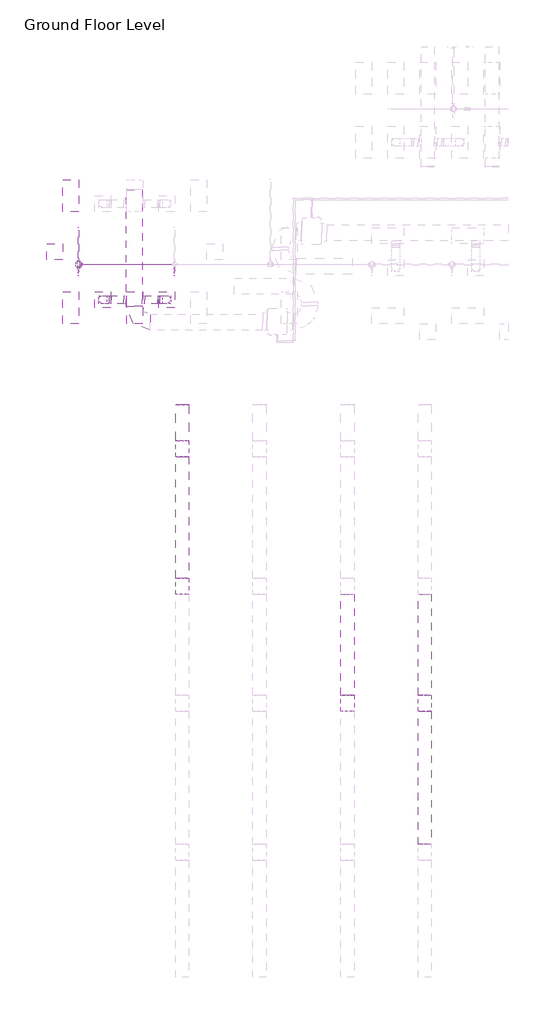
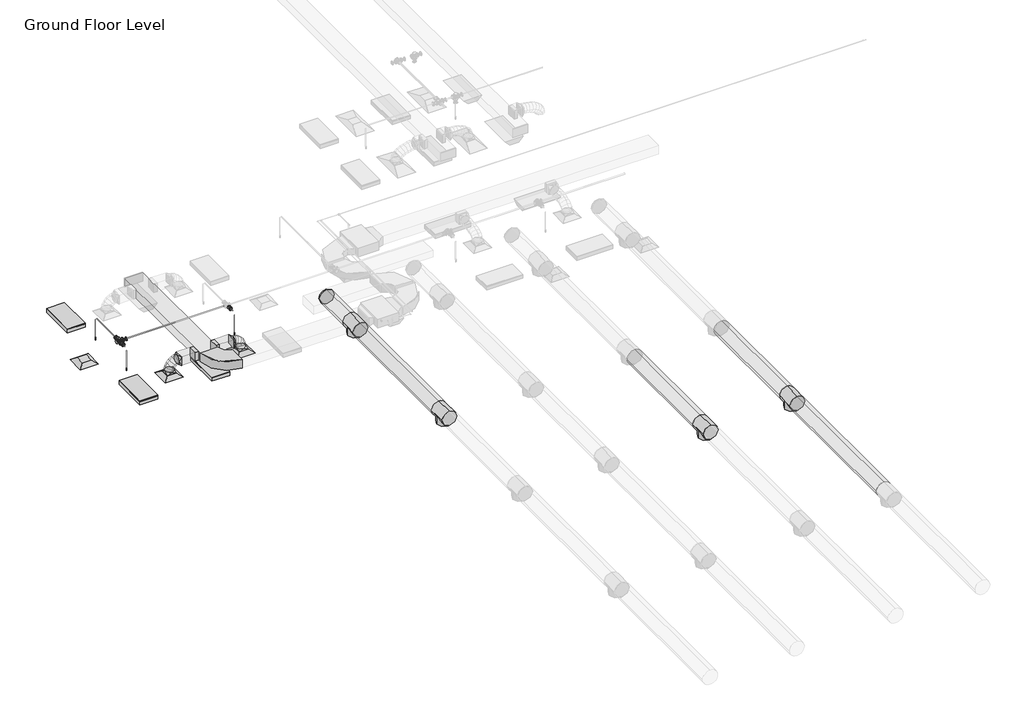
# One storey, part 10 of 75: 12 duct fittings, 10 duct segments, 7 pipe segments, 5 pipe fittings, 3 air terminals, 3 fire suppression terminals, 3 light fixtures.
"""IFC4 building model written with IfcOpenShell, lengths in millimetres."""

from ifc_helpers import new_model, si_unit, point, frame, frame_2d, origin, place, context, project, spatial, polyline, circle_curve, ellipse_curve, trimmed, segment, composite_curve, outline, extrude, transform, mapped, element, save
from ifc_brep_helpers import plane_surface, cylinder_surface, advanced_brep
from components import m_return_diffuser_600_x_600_face_300_x_300_connection_ff221211, m_rectangular_elbow_radius_1_w_c6ed0251, m_rectangular_takeoff_standard_cb0ccb98, m_rectangular_takeoff_standard_2be5eba1, m_rectangular_to_round_transition_angle_45_degree_641efff0, m_round_endcap_standard_1c45c55c, m_round_tee_standard_ed589d36, m_sprinkler_dry_pendent_hosted_15_mm_dry_pendent_9bda8e11, m_troffer_light_parabolic_rectangular1_0600x1200mm_4_lamp_86473d4a, m_reducer_flanged_cs_class_150_standard_ccf252ad, m_reducer_flanged_cs_class_150_standard_8338f9e4, m_reducer_flanged_cs_class_150_standard_dc68ad9d, m_tee_round_base_flanged_cs_class_150_standard_ab36f383

model = new_model("IFC4")

# Units and contexts
model_context = context("Model", 3, world=origin())
ifc_project = project(units=[si_unit("LENGTHUNIT", "METRE", prefix="MILLI")], contexts=[model_context])

# Site, building, storey
site = spatial("IfcSite", under=ifc_project)
building = spatial("IfcBuilding", under=site)
storey = spatial("IfcBuildingStorey", under=building, Name="Ground Floor Level", Elevation=900.0)

# Air terminals
placement = place(None, origin())
m_return_diffuser_600_x_600_face_300_x_300_connection_shape = m_return_diffuser_600_x_600_face_300_x_300_connection_ff221211(model_context)
element("IfcAirTerminal", 1, ObjectType="M_Return Diffuser : 600 x 600 Face 300 x 300 Connection", at=placement, inside=storey, context=model_context, shape_type="MappedRepresentation", body=[
    mapped(m_return_diffuser_600_x_600_face_300_x_300_connection_shape, transform((-20937.2327605, -2464.7846466, 3650.0), x_axis=(1.0, 0.0, 0.0), y_axis=(0.0, 1.0, 0.0), z_axis=(0.0, 0.0, 1.0))),
])
element("IfcAirTerminal", 2, ObjectType="M_Supply Diffuser : 600 x 600 Face 300 x 300 Connection", at=placement, inside=storey, context=model_context, shape_type="MappedRepresentation", body=[
    mapped(m_return_diffuser_600_x_600_face_300_x_300_connection_shape, transform((-19137.2327605, -4264.7846466, 3650.0), x_axis=(1.0, 0.0, 0.0), y_axis=(0.0, 1.0, 0.0), z_axis=(0.0, 0.0, 1.0))),
])
element("IfcAirTerminal", 3, ObjectType="M_Supply Diffuser : 600 x 600 Face 300 x 300 Connection", at=placement, inside=storey, context=model_context, shape_type="MappedRepresentation", body=[
    mapped(m_return_diffuser_600_x_600_face_300_x_300_connection_shape, transform((-16737.2327605, -4264.7846466, 3650.0), x_axis=(1.0, 0.0, 0.0), y_axis=(0.0, 1.0, 0.0), z_axis=(0.0, 0.0, 1.0))),
])

# Duct fittings
m_rectangular_elbow_radius_1_w_shape = m_rectangular_elbow_radius_1_w_c6ed0251(model_context)
element("IfcDuctFitting", 4, ObjectType="M_Rectangular Elbow - Radius : 1 W", at=placement, inside=storey, context=model_context, shape_type="MappedRepresentation", body=[
    mapped(m_rectangular_elbow_radius_1_w_shape, transform((-17948.0331707, -5111.2846466, 4099.9999574), x_axis=(0.0, -0.999999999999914, -4.1482844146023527e-07), y_axis=(0.9999999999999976, 0.0, 7.102056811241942e-08), z_axis=(-7.102056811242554e-08, -4.1482844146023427e-07, 0.9999999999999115))),
])
m_rectangular_takeoff_standard_shape = m_rectangular_takeoff_standard_cb0ccb98(model_context)
element("IfcDuctFitting", 5, ObjectType="M_Rectangular Takeoff : Standard", at=placement, inside=storey, context=model_context, shape_type="MappedRepresentation", body=[
    mapped(m_rectangular_takeoff_standard_shape, transform((-18248.0331707, -4264.7846466, 4100.0003085), x_axis=(-1.0, 0.0, 0.0), y_axis=(0.0, 1.0, 0.0), z_axis=(0.0, 0.0, -1.0))),
])
m_rectangular_takeoff_standard_2_shape = m_rectangular_takeoff_standard_2be5eba1(model_context)
element("IfcDuctFitting", 6, ObjectType="M_Rectangular Takeoff : Standard", at=placement, inside=storey, context=model_context, shape_type="MappedRepresentation", body=[
    mapped(m_rectangular_takeoff_standard_2_shape, transform((-17648.0331707, -4264.7846466, 4100.0003085), x_axis=(1.0, 0.0, 0.0), y_axis=(0.0, -1.0, 0.0), z_axis=(0.0, 0.0, -1.0))),
])
m_rectangular_to_round_transition_angle_45_degree_shape = m_rectangular_to_round_transition_angle_45_degree_641efff0(model_context)
element("IfcDuctFitting", 7, ObjectType="M_Rectangular to Round Transition - Angle : 45 Degree", at=placement, inside=storey, context=model_context, shape_type="MappedRepresentation", body=[
    mapped(m_rectangular_to_round_transition_angle_45_degree_shape, transform((-19137.2327605, -4264.7846466, 3751.6), x_axis=(0.0, 0.0, 1.0), y_axis=(-1.0, 0.0, 0.0), z_axis=(0.0, -1.0, 0.0))),
])
element("IfcDuctFitting", 8, ObjectType="M_Rectangular to Round Transition - Angle : 45 Degree", at=placement, inside=storey, context=model_context, shape_type="MappedRepresentation", body=[
    mapped(m_rectangular_to_round_transition_angle_45_degree_shape, transform((-18809.8971378, -4264.7846466, 4100.0003085), x_axis=(-1.0, 0.0, 0.0), y_axis=(0.0, -1.0, 0.0), z_axis=(0.0, 0.0, 1.0))),
])
element("IfcDuctFitting", 9, ObjectType="M_Rectangular to Round Transition - Angle : 45 Degree", at=placement, inside=storey, context=model_context, shape_type="MappedRepresentation", body=[
    mapped(m_rectangular_to_round_transition_angle_45_degree_shape, transform((-16737.2327605, -4264.7846466, 3751.6), x_axis=(0.0, 0.0, 1.0), y_axis=(-1.0, 0.0, 0.0), z_axis=(0.0, -1.0, 0.0))),
])
element("IfcDuctFitting", 10, ObjectType="M_Rectangular to Round Transition - Angle : 45 Degree", at=placement, inside=storey, context=model_context, shape_type="MappedRepresentation", body=[
    mapped(m_rectangular_to_round_transition_angle_45_degree_shape, transform((-17064.5683833, -4264.7846466, 4100.0003085), x_axis=(1.0, 0.0, 0.0), y_axis=(0.0, 1.0, 0.0), z_axis=(0.0, 0.0, 1.0))),
])
m_round_endcap_standard_shape = m_round_endcap_standard_1c45c55c(model_context)
element("IfcDuctFitting", 11, ObjectType="M_Round Endcap : Standard", at=placement, inside=storey, context=model_context, shape_type="MappedRepresentation", body=[
    mapped(m_round_endcap_standard_shape, transform((-16150.3527512, -8221.0125677, 7765.9), x_axis=(0.0, 0.9999999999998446, -5.576948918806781e-07), y_axis=(-1.0000000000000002, 0.0, 0.0), z_axis=(0.0, 5.576948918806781e-07, 0.9999999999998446))),
])
m_round_tee_standard_shape = m_round_tee_standard_ed589d36(model_context)
element("IfcDuctFitting", 12, ObjectType="M_Round Tee : Standard", at=placement, inside=storey, context=model_context, shape_type="MappedRepresentation", body=[
    mapped(m_round_tee_standard_shape, transform((-16150.3527512, -9864.7844235, 7765.9009947), x_axis=(0.0, 0.9999999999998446, -5.576948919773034e-07), y_axis=(0.0, 5.576948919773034e-07, 0.9999999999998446), z_axis=(1.0, 0.0, 0.0))),
])
element("IfcDuctFitting", 13, ObjectType="M_Round Tee : Standard", at=placement, inside=storey, context=model_context, shape_type="MappedRepresentation", body=[
    mapped(m_round_tee_standard_shape, transform((-16150.3527512, -15012.784348, 7765.9038657), x_axis=(0.0, 0.9999999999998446, -5.576948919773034e-07), y_axis=(0.0, 5.576948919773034e-07, 0.9999999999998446), z_axis=(1.0, 0.0, 0.0))),
])
element("IfcDuctFitting", 14, ObjectType="M_Round Tee : Standard", at=placement, inside=storey, context=model_context, shape_type="MappedRepresentation", body=[
    mapped(m_round_tee_standard_shape, transform((-9950.3527512, -19404.784563, 7765.9063151), x_axis=(0.0, 0.9999999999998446, -5.576948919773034e-07), y_axis=(0.0, 5.576948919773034e-07, 0.9999999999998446), z_axis=(1.0, 0.0, 0.0))),
])
element("IfcDuctFitting", 15, ObjectType="M_Round Tee : Standard", at=placement, inside=storey, context=model_context, shape_type="MappedRepresentation", body=[
    mapped(m_round_tee_standard_shape, transform((-7050.3527512, -19404.784563, 7765.9063151), x_axis=(0.0, 0.9999999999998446, -5.576948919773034e-07), y_axis=(0.0, 5.576948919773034e-07, 0.9999999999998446), z_axis=(1.0, 0.0, 0.0))),
])

# Duct segments
element("IfcDuctSegment", 16, ObjectType="Flex - Round", at=placement, inside=storey, context=model_context, shape_type="AdvancedBrep", body=[
    advanced_brep(
    [(-18987.2327605, -4264.7846466, 3826.6), (-19137.2327605, -4414.7846466, 3826.6), (-19287.2327605, -4264.7846466, 3826.6), (-19137.2327605, -4114.7846466, 3826.6), (-18987.2327605, -4264.7846466, 3832.5806494), (-19137.2327605, -4414.7846466, 3854.3870846), (-19287.2327605, -4264.7846466, 3876.1935198), (-19137.2327605, -4114.7846466, 3854.3870846), (-18983.2864584, -4264.7846466, 3845.866521), (-19122.8954468, -4414.7846466, 3902.6559964), (-19262.5044353, -4264.7846466, 3959.4454718), (-19122.8954468, -4114.7846466, 3902.6559964), (-18960.1038556, -4264.7846466, 3889.9713348), (-19084.1273946, -4414.7846466, 3976.4120685), (-19208.1509336, -4264.7846466, 4062.8528022), (-19084.1273946, -4114.7846466, 3976.4120685), (-18929.3324827, -4264.7846466, 3924.1186367), (-19027.2944369, -4414.7846466, 4039.4801732), (-19125.2563911, -4264.7846466, 4154.8417097), (-19027.2944369, -4114.7846466, 4039.4801732), (-18889.6598286, -4264.7846466, 3949.5853148), (-18958.7624069, -4414.7846466, 4083.4722675), (-19027.8649852, -4264.7846466, 4217.3592203), (-18958.7624069, -4114.7846466, 4083.4722675), (-18888.6275862, -4264.7846466, 3950.0003085), (-18917.6510814, -4414.7846466, 4100.0003085), (-18946.6745767, -4264.7846466, 4250.0003085), (-18917.6510814, -4114.7846466, 4100.0003085), (-18884.8971378, -4264.7846466, 3950.0003085), (-18884.8971378, -4114.7846466, 4100.0003085), (-18884.8971378, -4264.7846466, 4250.0003085), (-18884.8971378, -4414.7846466, 4100.0003085)],
    [
        (0, 1, circle_curve(frame((-19137.2327605, -4264.7846466, 3826.6), z_axis=(0.0, 0.0, -1.0), x_axis=(1.0, 0.0, 0.0)), 150.0)),
        (1, 2, circle_curve(frame((-19137.2327605, -4264.7846466, 3826.6), z_axis=(0.0, 0.0, -1.0), x_axis=(1.0, 0.0, 0.0)), 150.0)),
        (2, 3, circle_curve(frame((-19137.2327605, -4264.7846466, 3826.6), z_axis=(0.0, 0.0, -1.0), x_axis=(1.0, 0.0, 0.0)), 150.0)),
        (3, 0, circle_curve(frame((-19137.2327605, -4264.7846466, 3826.6), z_axis=(0.0, 0.0, -1.0), x_axis=(1.0, 0.0, 0.0)), 150.0)),
        (0, 4),
        (4, 5, ellipse_curve(frame((-19137.2327605, -4264.7846466, 3854.3870846), z_axis=(-0.14386395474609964, 0.0, -0.9895974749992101), x_axis=(0.9895974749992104, 0.0, -0.14386395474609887)), 151.5767813, 150.0)),
        (5, 1),
        (5, 6, ellipse_curve(frame((-19137.2327605, -4264.7846466, 3854.3870846), z_axis=(-0.14386395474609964, 0.0, -0.9895974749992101), x_axis=(0.9895974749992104, 0.0, -0.14386395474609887)), 151.5767813, 150.0)),
        (6, 2),
        (6, 7, ellipse_curve(frame((-19137.2327605, -4264.7846466, 3854.3870846), z_axis=(-0.14386395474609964, 0.0, -0.9895974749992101), x_axis=(0.9895974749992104, 0.0, -0.14386395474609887)), 151.5767813, 150.0)),
        (7, 3),
        (7, 4, ellipse_curve(frame((-19137.2327605, -4264.7846466, 3854.3870846), z_axis=(-0.14386395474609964, 0.0, -0.9895974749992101), x_axis=(0.9895974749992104, 0.0, -0.14386395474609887)), 151.5767813, 150.0)),
        (4, 8),
        (8, 9, ellipse_curve(frame((-19122.8954468, -4264.7846466, 3902.6559964), z_axis=(-0.376794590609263, 0.0, -0.9262968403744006), x_axis=(0.9262968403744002, 0.0, -0.37679459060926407)), 150.717332, 150.0)),
        (9, 5),
        (9, 10, ellipse_curve(frame((-19122.8954468, -4264.7846466, 3902.6559964), z_axis=(-0.376794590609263, 0.0, -0.9262968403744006), x_axis=(0.9262968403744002, 0.0, -0.37679459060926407)), 150.717332, 150.0)),
        (10, 6),
        (10, 11, ellipse_curve(frame((-19122.8954468, -4264.7846466, 3902.6559964), z_axis=(-0.376794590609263, 0.0, -0.9262968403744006), x_axis=(0.9262968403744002, 0.0, -0.37679459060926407)), 150.717332, 150.0)),
        (11, 7),
        (11, 8, ellipse_curve(frame((-19122.8954468, -4264.7846466, 3902.6559964), z_axis=(-0.376794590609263, 0.0, -0.9262968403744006), x_axis=(0.9262968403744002, 0.0, -0.37679459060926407)), 150.717332, 150.0)),
        (8, 12),
        (12, 13, ellipse_curve(frame((-19084.1273946, -4264.7846466, 3976.4120685), z_axis=(-0.5717930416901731, 0.0, -0.8203979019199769), x_axis=(0.8203979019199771, 0.0, -0.5717930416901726)), 151.1748612, 150.0)),
        (13, 9),
        (13, 14, ellipse_curve(frame((-19084.1273946, -4264.7846466, 3976.4120685), z_axis=(-0.5717930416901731, 0.0, -0.8203979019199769), x_axis=(0.8203979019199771, 0.0, -0.5717930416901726)), 151.1748612, 150.0)),
        (14, 10),
        (14, 15, ellipse_curve(frame((-19084.1273946, -4264.7846466, 3976.4120685), z_axis=(-0.5717930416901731, 0.0, -0.8203979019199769), x_axis=(0.8203979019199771, 0.0, -0.5717930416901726)), 151.1748612, 150.0)),
        (15, 11),
        (15, 12, ellipse_curve(frame((-19084.1273946, -4264.7846466, 3976.4120685), z_axis=(-0.5717930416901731, 0.0, -0.8203979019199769), x_axis=(0.8203979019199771, 0.0, -0.5717930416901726)), 151.1748612, 150.0)),
        (12, 16),
        (16, 17, ellipse_curve(frame((-19027.2944369, -4264.7846466, 4039.4801732), z_axis=(-0.7622501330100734, 0.0, -0.6472825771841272), x_axis=(0.6472825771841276, 0.0, -0.7622501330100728)), 151.3434127, 150.0)),
        (17, 13),
        (17, 18, ellipse_curve(frame((-19027.2944369, -4264.7846466, 4039.4801732), z_axis=(-0.7622501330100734, 0.0, -0.6472825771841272), x_axis=(0.6472825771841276, 0.0, -0.7622501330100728)), 151.3434127, 150.0)),
        (18, 14),
        (18, 19, ellipse_curve(frame((-19027.2944369, -4264.7846466, 4039.4801732), z_axis=(-0.7622501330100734, 0.0, -0.6472825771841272), x_axis=(0.6472825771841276, 0.0, -0.7622501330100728)), 151.3434127, 150.0)),
        (19, 15),
        (19, 16, ellipse_curve(frame((-19027.2944369, -4264.7846466, 4039.4801732), z_axis=(-0.7622501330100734, 0.0, -0.6472825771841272), x_axis=(0.6472825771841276, 0.0, -0.7622501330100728)), 151.3434127, 150.0)),
        (16, 20),
        (20, 21, ellipse_curve(frame((-18958.7624069, -4264.7846466, 4083.4722675), z_axis=(-0.8886216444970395, 0.0, -0.45864100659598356), x_axis=(0.45864100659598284, 0.0, -0.88862164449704)), 150.6681202, 150.0)),
        (21, 17),
        (21, 22, ellipse_curve(frame((-18958.7624069, -4264.7846466, 4083.4722675), z_axis=(-0.8886216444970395, 0.0, -0.45864100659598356), x_axis=(0.45864100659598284, 0.0, -0.88862164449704)), 150.6681202, 150.0)),
        (22, 18),
        (22, 23, ellipse_curve(frame((-18958.7624069, -4264.7846466, 4083.4722675), z_axis=(-0.8886216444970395, 0.0, -0.45864100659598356), x_axis=(0.45864100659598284, 0.0, -0.88862164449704)), 150.6681202, 150.0)),
        (23, 19),
        (23, 20, ellipse_curve(frame((-18958.7624069, -4264.7846466, 4083.4722675), z_axis=(-0.8886216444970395, 0.0, -0.45864100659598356), x_axis=(0.45864100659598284, 0.0, -0.88862164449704)), 150.6681202, 150.0)),
        (20, 24),
        (24, 25, ellipse_curve(frame((-18917.6510814, -4264.7846466, 4100.0003085), z_axis=(-0.9817905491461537, 0.0, -0.18996662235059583), x_axis=(0.18996662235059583, 0.0, -0.9817905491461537)), 152.7820777, 150.0)),
        (25, 21),
        (25, 26, ellipse_curve(frame((-18917.6510814, -4264.7846466, 4100.0003085), z_axis=(-0.9817905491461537, 0.0, -0.18996662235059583), x_axis=(0.18996662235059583, 0.0, -0.9817905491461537)), 152.7820777, 150.0)),
        (26, 22),
        (26, 27, ellipse_curve(frame((-18917.6510814, -4264.7846466, 4100.0003085), z_axis=(-0.9817905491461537, 0.0, -0.18996662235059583), x_axis=(0.18996662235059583, 0.0, -0.9817905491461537)), 152.7820777, 150.0)),
        (27, 23),
        (27, 24, ellipse_curve(frame((-18917.6510814, -4264.7846466, 4100.0003085), z_axis=(-0.9817905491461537, 0.0, -0.18996662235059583), x_axis=(0.18996662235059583, 0.0, -0.9817905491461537)), 152.7820777, 150.0)),
        (28, 29, circle_curve(frame((-18884.8971378, -4264.7846466, 4100.0003085), z_axis=(1.0, 0.0, 0.0), x_axis=(0.0, 0.0, -1.0)), 150.0)),
        (29, 30, circle_curve(frame((-18884.8971378, -4264.7846466, 4100.0003085), z_axis=(1.0, 0.0, 0.0), x_axis=(0.0, 0.0, -1.0)), 150.0)),
        (30, 31, circle_curve(frame((-18884.8971378, -4264.7846466, 4100.0003085), z_axis=(1.0, 0.0, 0.0), x_axis=(0.0, 0.0, -1.0)), 150.0)),
        (31, 28, circle_curve(frame((-18884.8971378, -4264.7846466, 4100.0003085), z_axis=(1.0, 0.0, 0.0), x_axis=(0.0, 0.0, -1.0)), 150.0)),
        (24, 28),
        (31, 25),
        (30, 26),
        (29, 27),
    ],
    [
        plane_surface(frame((-19137.2327605, -4414.7846466, 3826.6), z_axis=(0.0, 0.0, -1.0), x_axis=(1.0, 0.0, 0.0))),
        cylinder_surface(frame((-19137.2327605, -4264.7846466, 3826.6), z_axis=(0.0, 0.0, -1.0), x_axis=(1.0, 0.0, 0.0)), 150.0),
        cylinder_surface(frame((-19137.2327605, -4264.7846466, 3854.3870846), z_axis=(-0.28473481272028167, 0.0, -0.9586063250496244), x_axis=(0.9586063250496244, 0.0, -0.28473481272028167)), 150.0),
        cylinder_surface(frame((-19122.8954468, -4264.7846466, 3902.6559964), z_axis=(-0.4652676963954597, 0.0, -0.8851700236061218), x_axis=(0.8851700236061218, 0.0, -0.4652676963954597)), 150.0),
        cylinder_surface(frame((-19084.1273946, -4264.7846466, 3976.4120685), z_axis=(-0.6694309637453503, 0.0, -0.7428742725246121), x_axis=(0.7428742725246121, 0.0, -0.6694309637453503)), 150.0),
        cylinder_surface(frame((-19027.2944369, -4264.7846466, 4039.4801732), z_axis=(-0.8415369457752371, 0.0, -0.5401995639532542), x_axis=(0.5401995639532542, 0.0, -0.8415369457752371)), 150.0),
        cylinder_surface(frame((-18958.7624069, -4264.7846466, 4083.4722675), z_axis=(-0.9278253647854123, 0.0, -0.37301486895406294), x_axis=(0.37301486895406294, 0.0, -0.9278253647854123)), 150.0),
        plane_surface(frame((-18884.8971378, -4264.7846466, 3950.0003085), z_axis=(1.0, 0.0, 0.0), x_axis=(0.0, 1.0, 0.0))),
        cylinder_surface(frame((-18917.6510814, -4264.7846466, 4100.0003085), z_axis=(-1.0, 0.0, 0.0), x_axis=(0.0, 0.0, -1.0)), 150.0),
    ],
    [
        (0, [[1, 2, 3, 4]]),
        (1, [[-1, 5, 6, 7]]),
        (1, [[-2, -7, 8, 9]]),
        (1, [[-3, -9, 10, 11]]),
        (1, [[-4, -11, 12, -5]]),
        (2, [[-6, 13, 14, 15]]),
        (2, [[-8, -15, 16, 17]]),
        (2, [[-10, -17, 18, 19]]),
        (2, [[-12, -19, 20, -13]]),
        (3, [[-14, 21, 22, 23]]),
        (3, [[-16, -23, 24, 25]]),
        (3, [[-18, -25, 26, 27]]),
        (3, [[-20, -27, 28, -21]]),
        (4, [[-22, 29, 30, 31]]),
        (4, [[-24, -31, 32, 33]]),
        (4, [[-26, -33, 34, 35]]),
        (4, [[-28, -35, 36, -29]]),
        (5, [[-30, 37, 38, 39]]),
        (5, [[-32, -39, 40, 41]]),
        (5, [[-34, -41, 42, 43]]),
        (5, [[-36, -43, 44, -37]]),
        (6, [[-38, 45, 46, 47]]),
        (6, [[-40, -47, 48, 49]]),
        (6, [[-42, -49, 50, 51]]),
        (6, [[-44, -51, 52, -45]]),
        (7, [[53, 54, 55, 56]]),
        (8, [[-46, 57, -56, 58]]),
        (8, [[-48, -58, -55, 59]]),
        (8, [[-50, -59, -54, 60]]),
        (8, [[-52, -60, -53, -57]]),
    ],
),
])
element("IfcDuctSegment", 17, ObjectType="Flex - Round", at=placement, inside=storey, context=model_context, shape_type="AdvancedBrep", body=[
    advanced_brep(
    [(-16587.2327605, -4264.7846466, 3826.6), (-16737.2327605, -4414.7846466, 3826.6), (-16887.2327605, -4264.7846466, 3826.6), (-16737.2327605, -4114.7846466, 3826.6), (-16587.2327605, -4264.7846466, 3876.1935198), (-16737.2327605, -4414.7846466, 3854.3870846), (-16887.2327605, -4264.7846466, 3832.5806494), (-16737.2327605, -4114.7846466, 3854.3870846), (-16611.9610858, -4264.7846466, 3959.4454718), (-16751.5700742, -4414.7846466, 3902.6559964), (-16891.1790626, -4264.7846466, 3845.866521), (-16751.5700742, -4114.7846466, 3902.6559964), (-16666.3145875, -4264.7846466, 4062.8528022), (-16790.3381265, -4414.7846466, 3976.4120685), (-16914.3616655, -4264.7846466, 3889.9713348), (-16790.3381265, -4114.7846466, 3976.4120685), (-16749.20913, -4264.7846466, 4154.8417097), (-16847.1710842, -4414.7846466, 4039.4801732), (-16945.1330384, -4264.7846466, 3924.1186367), (-16847.1710842, -4114.7846466, 4039.4801732), (-16846.6005358, -4264.7846466, 4217.3592203), (-16915.7031142, -4414.7846466, 4083.4722675), (-16984.8056925, -4264.7846466, 3949.5853148), (-16915.7031142, -4114.7846466, 4083.4722675), (-16927.7909443, -4264.7846466, 4250.0003085), (-16956.8144396, -4414.7846466, 4100.0003085), (-16985.8379349, -4264.7846466, 3950.0003085), (-16956.8144396, -4114.7846466, 4100.0003085), (-16989.5683833, -4264.7846466, 4250.0003085), (-16989.5683833, -4114.7846466, 4100.0003085), (-16989.5683833, -4264.7846466, 3950.0003085), (-16989.5683833, -4414.7846466, 4100.0003085)],
    [
        (0, 1, circle_curve(frame((-16737.2327605, -4264.7846466, 3826.6), z_axis=(0.0, 0.0, -1.0), x_axis=(1.0, 0.0, 0.0)), 150.0)),
        (1, 2, circle_curve(frame((-16737.2327605, -4264.7846466, 3826.6), z_axis=(0.0, 0.0, -1.0), x_axis=(1.0, 0.0, 0.0)), 150.0)),
        (2, 3, circle_curve(frame((-16737.2327605, -4264.7846466, 3826.6), z_axis=(0.0, 0.0, -1.0), x_axis=(1.0, 0.0, 0.0)), 150.0)),
        (3, 0, circle_curve(frame((-16737.2327605, -4264.7846466, 3826.6), z_axis=(0.0, 0.0, -1.0), x_axis=(1.0, 0.0, 0.0)), 150.0)),
        (0, 4),
        (4, 5, ellipse_curve(frame((-16737.2327605, -4264.7846466, 3854.3870846), z_axis=(0.14386395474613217, 0.0, -0.9895974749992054), x_axis=(-0.9895974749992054, 0.0, -0.14386395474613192)), 151.5767813, 150.0)),
        (5, 1),
        (5, 6, ellipse_curve(frame((-16737.2327605, -4264.7846466, 3854.3870846), z_axis=(0.14386395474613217, 0.0, -0.9895974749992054), x_axis=(-0.9895974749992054, 0.0, -0.14386395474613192)), 151.5767813, 150.0)),
        (6, 2),
        (6, 7, ellipse_curve(frame((-16737.2327605, -4264.7846466, 3854.3870846), z_axis=(0.14386395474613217, 0.0, -0.9895974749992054), x_axis=(-0.9895974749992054, 0.0, -0.14386395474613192)), 151.5767813, 150.0)),
        (7, 3),
        (7, 4, ellipse_curve(frame((-16737.2327605, -4264.7846466, 3854.3870846), z_axis=(0.14386395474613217, 0.0, -0.9895974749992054), x_axis=(-0.9895974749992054, 0.0, -0.14386395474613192)), 151.5767813, 150.0)),
        (4, 8),
        (8, 9, ellipse_curve(frame((-16751.5700742, -4264.7846466, 3902.6559964), z_axis=(0.3767945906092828, 0.0, -0.9262968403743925), x_axis=(-0.926296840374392, 0.0, -0.37679459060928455)), 150.717332, 150.0)),
        (9, 5),
        (9, 10, ellipse_curve(frame((-16751.5700742, -4264.7846466, 3902.6559964), z_axis=(0.3767945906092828, 0.0, -0.9262968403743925), x_axis=(-0.926296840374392, 0.0, -0.37679459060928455)), 150.717332, 150.0)),
        (10, 6),
        (10, 11, ellipse_curve(frame((-16751.5700742, -4264.7846466, 3902.6559964), z_axis=(0.3767945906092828, 0.0, -0.9262968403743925), x_axis=(-0.926296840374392, 0.0, -0.37679459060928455)), 150.717332, 150.0)),
        (11, 7),
        (11, 8, ellipse_curve(frame((-16751.5700742, -4264.7846466, 3902.6559964), z_axis=(0.3767945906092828, 0.0, -0.9262968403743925), x_axis=(-0.926296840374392, 0.0, -0.37679459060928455)), 150.717332, 150.0)),
        (8, 12),
        (12, 13, ellipse_curve(frame((-16790.3381265, -4264.7846466, 3976.4120685), z_axis=(0.5717930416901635, 0.0, -0.8203979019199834), x_axis=(-0.820397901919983, 0.0, -0.5717930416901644)), 151.1748612, 150.0)),
        (13, 9),
        (13, 14, ellipse_curve(frame((-16790.3381265, -4264.7846466, 3976.4120685), z_axis=(0.5717930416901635, 0.0, -0.8203979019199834), x_axis=(-0.820397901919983, 0.0, -0.5717930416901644)), 151.1748612, 150.0)),
        (14, 10),
        (14, 15, ellipse_curve(frame((-16790.3381265, -4264.7846466, 3976.4120685), z_axis=(0.5717930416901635, 0.0, -0.8203979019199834), x_axis=(-0.820397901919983, 0.0, -0.5717930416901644)), 151.1748612, 150.0)),
        (15, 11),
        (15, 12, ellipse_curve(frame((-16790.3381265, -4264.7846466, 3976.4120685), z_axis=(0.5717930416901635, 0.0, -0.8203979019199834), x_axis=(-0.820397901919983, 0.0, -0.5717930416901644)), 151.1748612, 150.0)),
        (12, 16),
        (16, 17, ellipse_curve(frame((-16847.1710842, -4264.7846466, 4039.4801732), z_axis=(0.7622501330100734, 0.0, -0.6472825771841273), x_axis=(-0.6472825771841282, 0.0, -0.7622501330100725)), 151.3434127, 150.0)),
        (17, 13),
        (17, 18, ellipse_curve(frame((-16847.1710842, -4264.7846466, 4039.4801732), z_axis=(0.7622501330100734, 0.0, -0.6472825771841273), x_axis=(-0.6472825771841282, 0.0, -0.7622501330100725)), 151.3434127, 150.0)),
        (18, 14),
        (18, 19, ellipse_curve(frame((-16847.1710842, -4264.7846466, 4039.4801732), z_axis=(0.7622501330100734, 0.0, -0.6472825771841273), x_axis=(-0.6472825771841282, 0.0, -0.7622501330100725)), 151.3434127, 150.0)),
        (19, 15),
        (19, 16, ellipse_curve(frame((-16847.1710842, -4264.7846466, 4039.4801732), z_axis=(0.7622501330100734, 0.0, -0.6472825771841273), x_axis=(-0.6472825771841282, 0.0, -0.7622501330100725)), 151.3434127, 150.0)),
        (16, 20),
        (20, 21, ellipse_curve(frame((-16915.7031142, -4264.7846466, 4083.4722675), z_axis=(0.8886216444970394, 0.0, -0.45864100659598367), x_axis=(-0.45864100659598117, 0.0, -0.8886216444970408)), 150.6681202, 150.0)),
        (21, 17),
        (21, 22, ellipse_curve(frame((-16915.7031142, -4264.7846466, 4083.4722675), z_axis=(0.8886216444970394, 0.0, -0.45864100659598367), x_axis=(-0.45864100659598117, 0.0, -0.8886216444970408)), 150.6681202, 150.0)),
        (22, 18),
        (22, 23, ellipse_curve(frame((-16915.7031142, -4264.7846466, 4083.4722675), z_axis=(0.8886216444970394, 0.0, -0.45864100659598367), x_axis=(-0.45864100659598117, 0.0, -0.8886216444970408)), 150.6681202, 150.0)),
        (23, 19),
        (23, 20, ellipse_curve(frame((-16915.7031142, -4264.7846466, 4083.4722675), z_axis=(0.8886216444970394, 0.0, -0.45864100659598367), x_axis=(-0.45864100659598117, 0.0, -0.8886216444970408)), 150.6681202, 150.0)),
        (20, 24),
        (24, 25, ellipse_curve(frame((-16956.8144396, -4264.7846466, 4100.0003085), z_axis=(0.9817905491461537, 0.0, -0.18996662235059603), x_axis=(-0.18996662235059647, 0.0, -0.9817905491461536)), 152.7820777, 150.0)),
        (25, 21),
        (25, 26, ellipse_curve(frame((-16956.8144396, -4264.7846466, 4100.0003085), z_axis=(0.9817905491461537, 0.0, -0.18996662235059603), x_axis=(-0.18996662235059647, 0.0, -0.9817905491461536)), 152.7820777, 150.0)),
        (26, 22),
        (26, 27, ellipse_curve(frame((-16956.8144396, -4264.7846466, 4100.0003085), z_axis=(0.9817905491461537, 0.0, -0.18996662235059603), x_axis=(-0.18996662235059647, 0.0, -0.9817905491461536)), 152.7820777, 150.0)),
        (27, 23),
        (27, 24, ellipse_curve(frame((-16956.8144396, -4264.7846466, 4100.0003085), z_axis=(0.9817905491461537, 0.0, -0.18996662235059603), x_axis=(-0.18996662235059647, 0.0, -0.9817905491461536)), 152.7820777, 150.0)),
        (28, 29, circle_curve(frame((-16989.5683833, -4264.7846466, 4100.0003085), z_axis=(-1.0, 0.0, 0.0), x_axis=(0.0, 0.0, 1.0)), 150.0)),
        (29, 30, circle_curve(frame((-16989.5683833, -4264.7846466, 4100.0003085), z_axis=(-1.0, 0.0, 0.0), x_axis=(0.0, 0.0, 1.0)), 150.0)),
        (30, 31, circle_curve(frame((-16989.5683833, -4264.7846466, 4100.0003085), z_axis=(-1.0, 0.0, 0.0), x_axis=(0.0, 0.0, 1.0)), 150.0)),
        (31, 28, circle_curve(frame((-16989.5683833, -4264.7846466, 4100.0003085), z_axis=(-1.0, 0.0, 0.0), x_axis=(0.0, 0.0, 1.0)), 150.0)),
        (24, 28),
        (31, 25),
        (30, 26),
        (29, 27),
    ],
    [
        plane_surface(frame((-16737.2327605, -4414.7846466, 3826.6), z_axis=(0.0, 0.0, -1.0), x_axis=(1.0, 0.0, 0.0))),
        cylinder_surface(frame((-16737.2327605, -4264.7846466, 3826.6), z_axis=(0.0, 0.0, -1.0), x_axis=(1.0, 0.0, 0.0)), 150.0),
        cylinder_surface(frame((-16737.2327605, -4264.7846466, 3854.3870846), z_axis=(0.2847348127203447, 0.0, -0.9586063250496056), x_axis=(0.9586063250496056, 0.0, 0.2847348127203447)), 150.0),
        cylinder_surface(frame((-16751.5700742, -4264.7846466, 3902.6559964), z_axis=(0.4652676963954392, 0.0, -0.8851700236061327), x_axis=(0.8851700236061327, 0.0, 0.4652676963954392)), 150.0),
        cylinder_surface(frame((-16790.3381265, -4264.7846466, 3976.4120685), z_axis=(0.6694309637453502, 0.0, -0.7428742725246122), x_axis=(0.7428742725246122, 0.0, 0.6694309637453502)), 150.0),
        cylinder_surface(frame((-16847.1710842, -4264.7846466, 4039.4801732), z_axis=(0.841536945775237, 0.0, -0.5401995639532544), x_axis=(0.5401995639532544, 0.0, 0.841536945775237)), 150.0),
        cylinder_surface(frame((-16915.7031142, -4264.7846466, 4083.4722675), z_axis=(0.9278253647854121, 0.0, -0.37301486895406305), x_axis=(0.37301486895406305, 0.0, 0.9278253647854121)), 150.0),
        plane_surface(frame((-16989.5683833, -4264.7846466, 3950.0003085), z_axis=(-1.0, 0.0, 0.0), x_axis=(0.0, -1.0, 0.0))),
        cylinder_surface(frame((-16956.8144396, -4264.7846466, 4100.0003085), z_axis=(1.0, 0.0, 0.0), x_axis=(0.0, 0.0, 1.0)), 150.0),
    ],
    [
        (0, [[1, 2, 3, 4]]),
        (1, [[-1, 5, 6, 7]]),
        (1, [[-2, -7, 8, 9]]),
        (1, [[-3, -9, 10, 11]]),
        (1, [[-4, -11, 12, -5]]),
        (2, [[-6, 13, 14, 15]]),
        (2, [[-8, -15, 16, 17]]),
        (2, [[-10, -17, 18, 19]]),
        (2, [[-12, -19, 20, -13]]),
        (3, [[-14, 21, 22, 23]]),
        (3, [[-16, -23, 24, 25]]),
        (3, [[-18, -25, 26, 27]]),
        (3, [[-20, -27, 28, -21]]),
        (4, [[-22, 29, 30, 31]]),
        (4, [[-24, -31, 32, 33]]),
        (4, [[-26, -33, 34, 35]]),
        (4, [[-28, -35, 36, -29]]),
        (5, [[-30, 37, 38, 39]]),
        (5, [[-32, -39, 40, 41]]),
        (5, [[-34, -41, 42, 43]]),
        (5, [[-36, -43, 44, -37]]),
        (6, [[-38, 45, 46, 47]]),
        (6, [[-40, -47, 48, 49]]),
        (6, [[-42, -49, 50, 51]]),
        (6, [[-44, -51, 52, -45]]),
        (7, [[53, 54, 55, 56]]),
        (8, [[-46, 57, -56, 58]]),
        (8, [[-48, -58, -55, 59]]),
        (8, [[-50, -59, -54, 60]]),
        (8, [[-52, -60, -53, -57]]),
    ],
),
])
element("IfcDuctSegment", 18, ObjectType="Radius Elbows / Taps", at=placement, inside=storey, context=model_context, shape_type="SweptSolid", body=[
    extrude(outline(polyline([(-17648.0331707, -4511.2846466), (-18248.0331707, -4511.2846466), (-18248.0331707, -151.2845861), (-17648.0331707, -151.2845861), (-17648.0331707, -4511.2846466)])), frame((0.0, 0.0, 3950.0002063), z_axis=(0.0, 0.0, 1.0), x_axis=(1.0, 0.0, 0.0)), (0.0, 0.0, 1.0), 300.0),
])
element("IfcDuctSegment", 19, ObjectType="Radius Elbows / Taps", at=placement, inside=storey, context=model_context, shape_type="SweptSolid", body=[
    extrude(outline(polyline([(-17546.4331707, -4414.7846466), (-17546.4331707, -4114.7846466), (-17064.5683833, -4114.7846466), (-17064.5683833, -4414.7846466), (-17546.4331707, -4414.7846466)])), frame((0.0, 0.0, 3950.0003085), z_axis=(0.0, 0.0, 1.0), x_axis=(1.0, 0.0, 0.0)), (0.0, 0.0, 1.0), 300.0),
])
element("IfcDuctSegment", 20, ObjectType="Radius Elbows / Taps", at=placement, inside=storey, context=model_context, shape_type="SweptSolid", body=[
    extrude(outline(polyline([(-18349.6331707, -4114.7846466), (-18349.6331707, -4414.7846466), (-18809.8971378, -4414.7846466), (-18809.8971378, -4114.7846466), (-18349.6331707, -4114.7846466)])), frame((0.0, 0.0, 3950.0003085), z_axis=(0.0, 0.0, 1.0), x_axis=(1.0, 0.0, 0.0)), (0.0, 0.0, 1.0), 300.0),
])
element("IfcDuctSegment", 21, ObjectType="Tees", at=placement, inside=storey, context=model_context, shape_type="SweptSolid", body=[
    extrude(outline(composite_curve([segment(trimmed(circle_curve(frame_2d((7765.9008274, -16150.3527512)), 250.0), [point((7765.9008274, -16400.3527512))], [point((7515.9008274, -16150.3527512))], False, "CARTESIAN"), True, "CONTINUOUS"), segment(trimmed(circle_curve(frame_2d((7765.9008274, -16150.3527512)), 250.0), [point((7515.9008274, -16150.3527512))], [point((7765.9008274, -15900.3527512))], False, "CARTESIAN"), True, "CONTINUOUS"), segment(trimmed(circle_curve(frame_2d((7765.9008274, -16150.3527512)), 250.0), [point((7765.9008274, -15900.3527512))], [point((8015.9008274, -16150.3527512))], False, "CARTESIAN"), True, "CONTINUOUS"), segment(trimmed(circle_curve(frame_2d((7765.9008274, -16150.3527512)), 250.0), [point((8015.9008274, -16150.3527512))], [point((7765.9008274, -16400.3527512))], False, "CARTESIAN"), True, "CONTINUOUS")], self_intersect=False)), frame((0.0, -9564.7844235, 0.0), z_axis=(0.0, 1.0, 0.0), x_axis=(0.0, 0.0, 1.0)), (0.0, 0.0, 1.0), 1343.7718558),
])
element("IfcDuctSegment", 22, ObjectType="Tees", at=placement, inside=storey, context=model_context, shape_type="SweptSolid", body=[
    extrude(outline(composite_curve([segment(trimmed(circle_curve(frame_2d((7765.901162, -16150.3527512)), 250.0), [point((7765.901162, -16400.3527512))], [point((7515.901162, -16150.3527512))], False, "CARTESIAN"), True, "CONTINUOUS"), segment(trimmed(circle_curve(frame_2d((7765.901162, -16150.3527512)), 250.0), [point((7515.901162, -16150.3527512))], [point((7765.901162, -15900.3527512))], False, "CARTESIAN"), True, "CONTINUOUS"), segment(trimmed(circle_curve(frame_2d((7765.901162, -16150.3527512)), 250.0), [point((7765.901162, -15900.3527512))], [point((8015.901162, -16150.3527512))], False, "CARTESIAN"), True, "CONTINUOUS"), segment(trimmed(circle_curve(frame_2d((7765.901162, -16150.3527512)), 250.0), [point((8015.901162, -16150.3527512))], [point((7765.901162, -16400.3527512))], False, "CARTESIAN"), True, "CONTINUOUS")], self_intersect=False)), frame((0.0, -14712.784348, 0.0), z_axis=(0.0, 1.0, 0.0), x_axis=(0.0, 0.0, 1.0)), (0.0, 0.0, 1.0), 4547.9999245),
])
element("IfcDuctSegment", 23, ObjectType="Tees", at=placement, inside=storey, context=model_context, shape_type="SweptSolid", body=[
    extrude(outline(composite_curve([segment(trimmed(circle_curve(frame_2d((7765.9061478, -9950.3527512)), 250.0), [point((7765.9061478, -9700.3527512))], [point((8015.9061478, -9950.3527512))], False, "CARTESIAN"), True, "CONTINUOUS"), segment(trimmed(circle_curve(frame_2d((7765.9061478, -9950.3527512)), 250.0), [point((8015.9061478, -9950.3527512))], [point((7765.9061478, -10200.3527512))], False, "CARTESIAN"), True, "CONTINUOUS"), segment(trimmed(circle_curve(frame_2d((7765.9061478, -9950.3527512)), 250.0), [point((7765.9061478, -10200.3527512))], [point((7515.9061478, -9950.3527512))], False, "CARTESIAN"), True, "CONTINUOUS"), segment(trimmed(circle_curve(frame_2d((7765.9061478, -9950.3527512)), 250.0), [point((7515.9061478, -9950.3527512))], [point((7765.9061478, -9700.3527512))], False, "CARTESIAN"), True, "CONTINUOUS")], self_intersect=False)), frame((0.0, -19104.784563, 0.0), z_axis=(0.0, 1.0, 0.0), x_axis=(0.0, 0.0, 1.0)), (0.0, 0.0, 1.0), 3792.000215),
])
element("IfcDuctSegment", 24, ObjectType="Tees", at=placement, inside=storey, context=model_context, shape_type="SweptSolid", body=[
    extrude(outline(composite_curve([segment(trimmed(circle_curve(frame_2d((7765.9061478, -7050.3527512)), 250.0), [point((7765.9061478, -6800.3527512))], [point((8015.9061478, -7050.3527512))], False, "CARTESIAN"), True, "CONTINUOUS"), segment(trimmed(circle_curve(frame_2d((7765.9061478, -7050.3527512)), 250.0), [point((8015.9061478, -7050.3527512))], [point((7765.9061478, -7300.3527512))], False, "CARTESIAN"), True, "CONTINUOUS"), segment(trimmed(circle_curve(frame_2d((7765.9061478, -7050.3527512)), 250.0), [point((7765.9061478, -7300.3527512))], [point((7515.9061478, -7050.3527512))], False, "CARTESIAN"), True, "CONTINUOUS"), segment(trimmed(circle_curve(frame_2d((7765.9061478, -7050.3527512)), 250.0), [point((7515.9061478, -7050.3527512))], [point((7765.9061478, -6800.3527512))], False, "CARTESIAN"), True, "CONTINUOUS")], self_intersect=False)), frame((0.0, -19104.784563, 0.0), z_axis=(0.0, 1.0, 0.0), x_axis=(0.0, 0.0, 1.0)), (0.0, 0.0, 1.0), 3792.000215),
])
element("IfcDuctSegment", 25, ObjectType="Tees", at=placement, inside=storey, context=model_context, shape_type="SweptSolid", body=[
    extrude(outline(composite_curve([segment(trimmed(circle_curve(frame_2d((7765.9092709, -7050.3527512)), 250.0), [point((7765.9092709, -6800.3527512))], [point((8015.9092709, -7050.3527512))], False, "CARTESIAN"), True, "CONTINUOUS"), segment(trimmed(circle_curve(frame_2d((7765.9092709, -7050.3527512)), 250.0), [point((8015.9092709, -7050.3527512))], [point((7765.9092709, -7300.3527512))], False, "CARTESIAN"), True, "CONTINUOUS"), segment(trimmed(circle_curve(frame_2d((7765.9092709, -7050.3527512)), 250.0), [point((7765.9092709, -7300.3527512))], [point((7515.9092709, -7050.3527512))], False, "CARTESIAN"), True, "CONTINUOUS"), segment(trimmed(circle_curve(frame_2d((7765.9092709, -7050.3527512)), 250.0), [point((7515.9092709, -7050.3527512))], [point((7765.9092709, -6800.3527512))], False, "CARTESIAN"), True, "CONTINUOUS")], self_intersect=False)), frame((0.0, -24704.784563, 0.0), z_axis=(0.0, 1.0, 0.0), x_axis=(0.0, 0.0, 1.0)), (0.0, 0.0, 1.0), 5000.0),
])

# Fire suppression terminals
m_sprinkler_dry_pendent_hosted_15_mm_dry_pendent_shape = m_sprinkler_dry_pendent_hosted_15_mm_dry_pendent_9bda8e11(model_context)
element("IfcFireSuppressionTerminal", 26, ObjectType="M_Sprinkler - Dry - Pendent - Hosted : 15 mm Dry Pendent", at=placement, inside=storey, context=model_context, shape_type="MappedRepresentation", body=[
    mapped(m_sprinkler_dry_pendent_hosted_15_mm_dry_pendent_shape, transform((-20037.2327605, -1564.7846466, 3650.0), x_axis=(1.0, 0.0, 0.0), y_axis=(0.0, -1.0, 0.0), z_axis=(0.0, 0.0, -1.0))),
])
element("IfcFireSuppressionTerminal", 27, ObjectType="M_Sprinkler - Dry - Pendent - Hosted : 15 mm Dry Pendent", at=placement, inside=storey, context=model_context, shape_type="MappedRepresentation", body=[
    mapped(m_sprinkler_dry_pendent_hosted_15_mm_dry_pendent_shape, transform((-16437.2327605, -3364.7846466, 3650.0), x_axis=(1.0, 0.0, 0.0), y_axis=(0.0, -1.0, 0.0), z_axis=(0.0, 0.0, -1.0))),
])
element("IfcFireSuppressionTerminal", 28, ObjectType="M_Sprinkler - Dry - Pendent - Hosted : 15 mm Dry Pendent", at=placement, inside=storey, context=model_context, shape_type="MappedRepresentation", body=[
    mapped(m_sprinkler_dry_pendent_hosted_15_mm_dry_pendent_shape, transform((-20037.2327605, -3364.7846466, 3650.0), x_axis=(1.0, 0.0, 0.0), y_axis=(0.0, -1.0, 0.0), z_axis=(0.0, 0.0, -1.0))),
])

# Light fixtures
m_troffer_light_parabolic_rectangular1_0600x1200mm_4_lamp_shape = m_troffer_light_parabolic_rectangular1_0600x1200mm_4_lamp_86473d4a(model_context)
element("IfcLightFixture", 29, ObjectType="M_Troffer Light - Parabolic Rectangular1 : 0600x1200mm(4 Lamp) - 277V 2", at=placement, inside=storey, context=model_context, shape_type="MappedRepresentation", body=[
    mapped(m_troffer_light_parabolic_rectangular1_0600x1200mm_4_lamp_shape, transform((-20396.6986926, -346.081145, 3650.0), x_axis=(0.0, 1.0, 0.0), y_axis=(-1.0, 0.0, 0.0), z_axis=(0.0, 0.0, 1.0))),
])
element("IfcLightFixture", 30, ObjectType="M_Troffer Light - Parabolic Rectangular1 : 0600x1200mm(4 Lamp) - 277V 2", at=placement, inside=storey, context=model_context, shape_type="MappedRepresentation", body=[
    mapped(m_troffer_light_parabolic_rectangular1_0600x1200mm_4_lamp_shape, transform((-20396.6986926, -4546.081145, 3650.0), x_axis=(0.0, 1.0, 0.0), y_axis=(-1.0, 0.0, 0.0), z_axis=(0.0, 0.0, 1.0))),
])
element("IfcLightFixture", 31, ObjectType="M_Troffer Light - Parabolic Rectangular1 : 0600x1200mm(4 Lamp) - 277V 2", at=placement, inside=storey, context=model_context, shape_type="MappedRepresentation", body=[
    mapped(m_troffer_light_parabolic_rectangular1_0600x1200mm_4_lamp_shape, transform((-17996.6986926, -4546.081145, 3650.0), x_axis=(0.0, 1.0, 0.0), y_axis=(-1.0, 0.0, 0.0), z_axis=(0.0, 0.0, 1.0))),
])

# Pipe fittings
m_reducer_flanged_cs_class_150_standard_shape = m_reducer_flanged_cs_class_150_standard_ccf252ad(model_context)
element("IfcPipeFitting", 32, ObjectType="M_Reducer - Flanged - CS - Class 150 : Standard", at=placement, inside=storey, context=model_context, shape_type="MappedRepresentation", body=[
    mapped(m_reducer_flanged_cs_class_150_standard_shape, transform((-16437.2327605, -3039.3491993, 4360.0), x_axis=(0.0, -1.0, 0.0), y_axis=(1.0, 0.0, 0.0), z_axis=(0.0, 0.0, 1.0))),
])
m_reducer_flanged_cs_class_150_standard_2_shape = m_reducer_flanged_cs_class_150_standard_8338f9e4(model_context)
element("IfcPipeFitting", 33, ObjectType="M_Reducer - Flanged - CS - Class 150 : Standard", at=placement, inside=storey, context=model_context, shape_type="MappedRepresentation", body=[
    mapped(m_reducer_flanged_cs_class_150_standard_2_shape, transform((-19924.9741668, -2950.3491993, 4360.0), x_axis=(1.0, 0.0, 0.0), y_axis=(0.0, 1.0, 0.0), z_axis=(0.0, 0.0, 1.0))),
])
m_reducer_flanged_cs_class_150_standard_3_shape = m_reducer_flanged_cs_class_150_standard_dc68ad9d(model_context)
element("IfcPipeFitting", 34, ObjectType="M_Reducer - Flanged - CS - Class 150 : Standard", at=placement, inside=storey, context=model_context, shape_type="MappedRepresentation", body=[
    mapped(m_reducer_flanged_cs_class_150_standard_3_shape, transform((-20037.2327605, -2838.0906055, 4360.0), x_axis=(0.0, 1.0, 0.0), y_axis=(-1.0, 0.0, 0.0), z_axis=(0.0, 0.0, 1.0))),
])
element("IfcPipeFitting", 35, ObjectType="M_Reducer - Flanged - CS - Class 150 : Standard", at=placement, inside=storey, context=model_context, shape_type="MappedRepresentation", body=[
    mapped(m_reducer_flanged_cs_class_150_standard_3_shape, transform((-20037.2327605, -3062.607793, 4360.0), x_axis=(0.0, -1.0, 0.0), y_axis=(1.0, 0.0, 0.0), z_axis=(0.0, 0.0, 1.0))),
])
m_tee_round_base_flanged_cs_class_150_standard_shape = m_tee_round_base_flanged_cs_class_150_standard_ab36f383(model_context)
element("IfcPipeFitting", 36, ObjectType="M_Tee Round Base - Flanged - CS - Class 150 : Standard", at=placement, inside=storey, context=model_context, shape_type="MappedRepresentation", body=[
    mapped(m_tee_round_base_flanged_cs_class_150_standard_shape, transform((-20037.2327605, -2950.3491993, 4360.0), x_axis=(0.0, -1.0, 0.0), y_axis=(-1.0, 0.0, 0.0), z_axis=(0.0, 0.0, -1.0))),
])

# Pipe segments
element("IfcPipeSegment", 37, ObjectType="Steel flanged", at=placement, inside=storey, context=model_context, shape_type="SweptSolid", body=[
    extrude(outline(composite_curve([segment(trimmed(circle_curve(frame_2d((-2950.3491993, 4360.0)), 16.7005), [point((-2933.6486993, 4360.0))], [point((-2950.3491993, 4343.2995))], False, "CARTESIAN"), True, "CONTINUOUS"), segment(trimmed(circle_curve(frame_2d((-2950.3491993, 4360.0)), 16.7005), [point((-2950.3491993, 4343.2995))], [point((-2967.0496993, 4360.0))], False, "CARTESIAN"), True, "CONTINUOUS"), segment(trimmed(circle_curve(frame_2d((-2950.3491993, 4360.0)), 16.7005), [point((-2967.0496993, 4360.0))], [point((-2950.3491993, 4376.7005))], False, "CARTESIAN"), True, "CONTINUOUS"), segment(trimmed(circle_curve(frame_2d((-2950.3491993, 4360.0)), 16.7005), [point((-2950.3491993, 4376.7005))], [point((-2933.6486993, 4360.0))], False, "CARTESIAN"), True, "CONTINUOUS")], self_intersect=False)), frame((-19810.9741668, 0.0, 0.0), z_axis=(1.0, 0.0, 0.0), x_axis=(0.0, 1.0, 0.0)), (0.0, 0.0, 1.0), 3284.7414063),
])
element("IfcPipeSegment", 38, ObjectType="Steel flanged", at=placement, inside=storey, context=model_context, shape_type="SweptSolid", body=[
    extrude(outline(composite_curve([segment(trimmed(circle_curve(frame_2d((-20037.2327605, -1564.7846466)), 10.668), [point((-20047.9007605, -1564.7846466))], [point((-20037.2327605, -1554.1166466))], False, "CARTESIAN"), True, "CONTINUOUS"), segment(trimmed(circle_curve(frame_2d((-20037.2327605, -1564.7846466)), 10.668), [point((-20037.2327605, -1554.1166466))], [point((-20026.5647605, -1564.7846466))], False, "CARTESIAN"), True, "CONTINUOUS"), segment(trimmed(circle_curve(frame_2d((-20037.2327605, -1564.7846466)), 10.668), [point((-20026.5647605, -1564.7846466))], [point((-20037.2327605, -1575.4526466))], False, "CARTESIAN"), True, "CONTINUOUS"), segment(trimmed(circle_curve(frame_2d((-20037.2327605, -1564.7846466)), 10.668), [point((-20037.2327605, -1575.4526466))], [point((-20047.9007605, -1564.7846466))], False, "CARTESIAN"), True, "CONTINUOUS")], self_intersect=False)), frame((0.0, 0.0, 3650.0), z_axis=(0.0, 0.0, 1.0), x_axis=(1.0, 0.0, 0.0)), (0.0, 0.0, 1.0), 616.9914063),
])
element("IfcPipeSegment", 39, ObjectType="Steel flanged", at=placement, inside=storey, context=model_context, shape_type="SweptSolid", body=[
    extrude(outline(composite_curve([segment(trimmed(circle_curve(frame_2d((4360.0, -20037.2327605)), 10.668), [point((4360.0, -20047.9007605))], [point((4349.332, -20037.2327605))], False, "CARTESIAN"), True, "CONTINUOUS"), segment(trimmed(circle_curve(frame_2d((4360.0, -20037.2327605)), 10.668), [point((4349.332, -20037.2327605))], [point((4360.0, -20026.5647605))], False, "CARTESIAN"), True, "CONTINUOUS"), segment(trimmed(circle_curve(frame_2d((4360.0, -20037.2327605)), 10.668), [point((4360.0, -20026.5647605))], [point((4370.668, -20037.2327605))], False, "CARTESIAN"), True, "CONTINUOUS"), segment(trimmed(circle_curve(frame_2d((4360.0, -20037.2327605)), 10.668), [point((4370.668, -20037.2327605))], [point((4360.0, -20047.9007605))], False, "CARTESIAN"), True, "CONTINUOUS")], self_intersect=False)), frame((0.0, -2724.0906055, 0.0), z_axis=(0.0, 1.0, 0.0), x_axis=(0.0, 0.0, 1.0)), (0.0, 0.0, 1.0), 1066.2973652),
])
element("IfcPipeSegment", 40, ObjectType="Steel flanged", at=placement, inside=storey, context=model_context, shape_type="SweptSolid", body=[
    extrude(outline(composite_curve([segment(trimmed(circle_curve(frame_2d((4360.0, -16437.2327605)), 10.668), [point((4360.0, -16426.5647605))], [point((4370.668, -16437.2327605))], False, "CARTESIAN"), True, "CONTINUOUS"), segment(trimmed(circle_curve(frame_2d((4360.0, -16437.2327605)), 10.668), [point((4370.668, -16437.2327605))], [point((4360.0, -16447.9007605))], False, "CARTESIAN"), True, "CONTINUOUS"), segment(trimmed(circle_curve(frame_2d((4360.0, -16437.2327605)), 10.668), [point((4360.0, -16447.9007605))], [point((4349.332, -16437.2327605))], False, "CARTESIAN"), True, "CONTINUOUS"), segment(trimmed(circle_curve(frame_2d((4360.0, -16437.2327605)), 10.668), [point((4349.332, -16437.2327605))], [point((4360.0, -16426.5647605))], False, "CARTESIAN"), True, "CONTINUOUS")], self_intersect=False)), frame((0.0, -3271.7760528, 0.0), z_axis=(0.0, 1.0, 0.0), x_axis=(0.0, 0.0, 1.0)), (0.0, 0.0, 1.0), 118.4268536),
])
element("IfcPipeSegment", 41, ObjectType="Steel flanged", at=placement, inside=storey, context=model_context, shape_type="SweptSolid", body=[
    extrude(outline(composite_curve([segment(trimmed(circle_curve(frame_2d((-16437.2327605, -3364.7846466)), 10.668), [point((-16447.9007605, -3364.7846466))], [point((-16437.2327605, -3354.1166466))], False, "CARTESIAN"), True, "CONTINUOUS"), segment(trimmed(circle_curve(frame_2d((-16437.2327605, -3364.7846466)), 10.668), [point((-16437.2327605, -3354.1166466))], [point((-16426.5647605, -3364.7846466))], False, "CARTESIAN"), True, "CONTINUOUS"), segment(trimmed(circle_curve(frame_2d((-16437.2327605, -3364.7846466)), 10.668), [point((-16426.5647605, -3364.7846466))], [point((-16437.2327605, -3375.4526466))], False, "CARTESIAN"), True, "CONTINUOUS"), segment(trimmed(circle_curve(frame_2d((-16437.2327605, -3364.7846466)), 10.668), [point((-16437.2327605, -3375.4526466))], [point((-16447.9007605, -3364.7846466))], False, "CARTESIAN"), True, "CONTINUOUS")], self_intersect=False)), frame((0.0, 0.0, 3650.0), z_axis=(0.0, 0.0, 1.0), x_axis=(1.0, 0.0, 0.0)), (0.0, 0.0, 1.0), 616.9914063),
])
element("IfcPipeSegment", 42, ObjectType="Steel flanged", at=placement, inside=storey, context=model_context, shape_type="SweptSolid", body=[
    extrude(outline(composite_curve([segment(trimmed(circle_curve(frame_2d((4360.0, -20037.2327605)), 10.668), [point((4360.0, -20026.5647605))], [point((4370.668, -20037.2327605))], False, "CARTESIAN"), True, "CONTINUOUS"), segment(trimmed(circle_curve(frame_2d((4360.0, -20037.2327605)), 10.668), [point((4370.668, -20037.2327605))], [point((4360.0, -20047.9007605))], False, "CARTESIAN"), True, "CONTINUOUS"), segment(trimmed(circle_curve(frame_2d((4360.0, -20037.2327605)), 10.668), [point((4360.0, -20047.9007605))], [point((4349.332, -20037.2327605))], False, "CARTESIAN"), True, "CONTINUOUS"), segment(trimmed(circle_curve(frame_2d((4360.0, -20037.2327605)), 10.668), [point((4349.332, -20037.2327605))], [point((4360.0, -20026.5647605))], False, "CARTESIAN"), True, "CONTINUOUS")], self_intersect=False)), frame((0.0, -3271.7760528, 0.0), z_axis=(0.0, 1.0, 0.0), x_axis=(0.0, 0.0, 1.0)), (0.0, 0.0, 1.0), 95.1682598),
])
element("IfcPipeSegment", 43, ObjectType="Steel flanged", at=placement, inside=storey, context=model_context, shape_type="SweptSolid", body=[
    extrude(outline(composite_curve([segment(trimmed(circle_curve(frame_2d((-20037.2327605, -3364.7846466)), 10.668), [point((-20047.9007605, -3364.7846466))], [point((-20037.2327605, -3354.1166466))], False, "CARTESIAN"), True, "CONTINUOUS"), segment(trimmed(circle_curve(frame_2d((-20037.2327605, -3364.7846466)), 10.668), [point((-20037.2327605, -3354.1166466))], [point((-20026.5647605, -3364.7846466))], False, "CARTESIAN"), True, "CONTINUOUS"), segment(trimmed(circle_curve(frame_2d((-20037.2327605, -3364.7846466)), 10.668), [point((-20026.5647605, -3364.7846466))], [point((-20037.2327605, -3375.4526466))], False, "CARTESIAN"), True, "CONTINUOUS"), segment(trimmed(circle_curve(frame_2d((-20037.2327605, -3364.7846466)), 10.668), [point((-20037.2327605, -3375.4526466))], [point((-20047.9007605, -3364.7846466))], False, "CARTESIAN"), True, "CONTINUOUS")], self_intersect=False)), frame((0.0, 0.0, 3650.0), z_axis=(0.0, 0.0, 1.0), x_axis=(1.0, 0.0, 0.0)), (0.0, 0.0, 1.0), 616.9914063),
])

save(model, "model.ifc")
